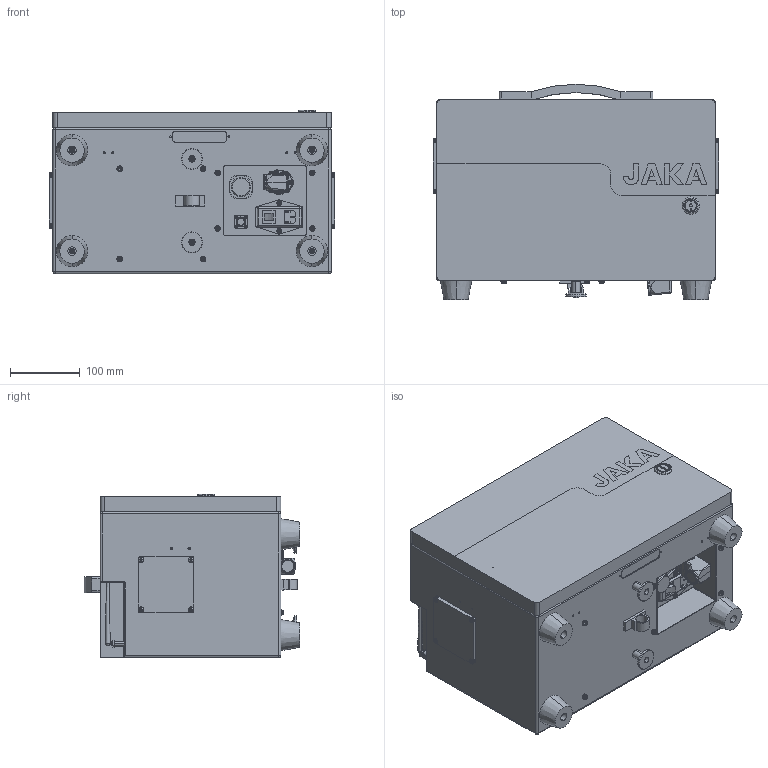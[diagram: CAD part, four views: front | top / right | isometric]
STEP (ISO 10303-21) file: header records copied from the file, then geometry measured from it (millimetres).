
FILE_DESCRIPTION (( 'STEP AP214' ), '1' );
FILE_NAME ('Zu Cab.STEP', '2022-04-08T09:49:02', ( '' ), ( '' ), 'SwSTEP 2.0', 'SolidWorks 2016', '' );
FILE_SCHEMA (( 'AUTOMOTIVE_DESIGN' ));
Length unit declared in the file: millimetre
Products named in the file (1): Zu Cab
Bounding box: 410.11 x 309.69 x 235 mm (x, y, z)
Volume: 23725599.2 mm3; surface area: 661225.5 mm2
Topology: 43 solids, 61 shells, 2207 faces, 5446 edges, 3468 vertices
Faces by surface type: plane 1063, cylinder 816, bspline 114, cone 100, torus 66, sphere 48
Entity records: 98503 total; most frequent: CARTESIAN_POINT 22212, DIRECTION 10840, ORIENTED_EDGE 10788, EDGE_CURVE 5394, AXIS2_PLACEMENT_3D 3971, VERTEX_POINT 3460, LINE 2898, VECTOR 2898
